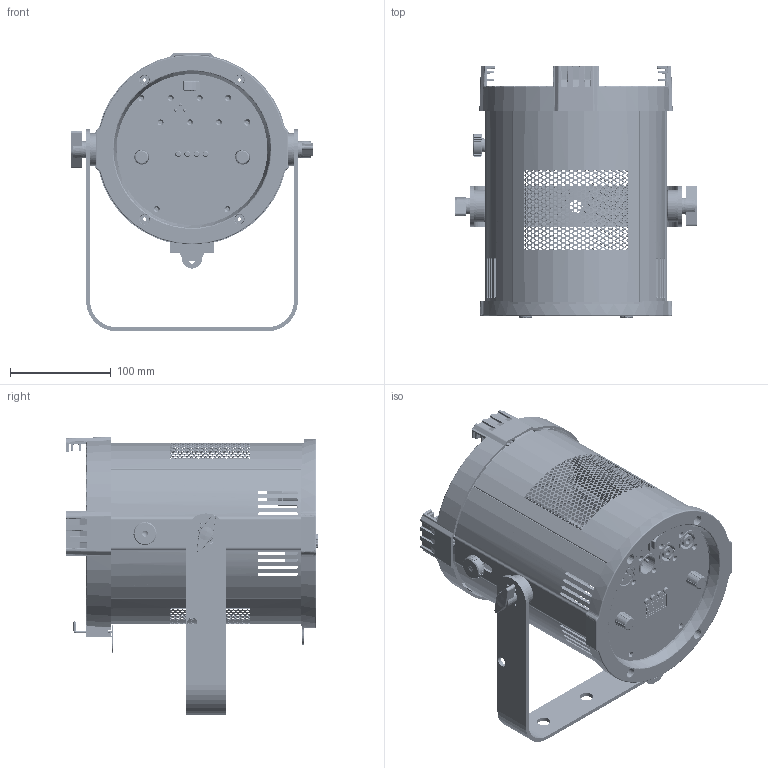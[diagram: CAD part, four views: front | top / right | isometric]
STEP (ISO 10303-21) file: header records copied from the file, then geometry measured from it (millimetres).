
FILE_DESCRIPTION (( 'STEP AP214' ), '1' );
FILE_NAME ('Event200t（常规）.STEP', '2025-03-14T05:36:43', ( '' ), ( '' ), 'SwSTEP 2.0', 'SolidWorks 2023', '' );
FILE_SCHEMA (( 'AUTOMOTIVE_DESIGN' ));
Length unit declared in the file: millimetre
Products named in the file (24): 提手固定件B; 滚齿-M6; Event200t（常规）; 弹簧卡扣 (2); 灯筒铝板（右侧）; M6直线旋钮; 提手; 小电位器旋钮; 卡侬插座; 亚克力板; 灯筒铝板（左侧）; 弹簧卡扣; 常规控制面板; 灯筒尾; 50W聚光灯显示屏; 滚齿-通孔; 灯筒头; 防护网; 灯筒铝板（上）; NAC3MPA; 电源开关; 电位器; 按钮帽; 旋钮
Assembly tree (35 placements, depth 2):
  Event200t（常规）
    常规控制面板
    灯筒铝板（上）  x2
    灯筒铝板（右侧）
    灯筒铝板（左侧）
    50W聚光灯显示屏
    按钮帽  x4
    卡侬插座
    电源开关
    灯筒尾
    电位器  x2
    滚齿-M6  x2
    滚齿-通孔  x2
    小电位器旋钮  x2
    防护网  x2
    提手固定件B  x2
    灯筒头
    亚克力板
    提手
    弹簧卡扣 (2)
    弹簧卡扣
    M6直线旋钮  x2
    旋钮
    NAC3MPA  x2
Bounding box: 240.89 x 250 x 275.87 mm (x, y, z)
Volume: 766795.6 mm3; surface area: 618742.4 mm2
Topology: 39 solids, 39 shells, 13374 faces, 37975 edges, 24269 vertices
Faces by surface type: bspline 6414, plane 4953, cylinder 1540, cone 262, torus 145, sphere 60
Full cylindrical faces by diameter (mm): 1.65 x2, 2 x2, 2.4 x8, 2.5 x22, 3.2 x32, 3.3 x8, 3.4 x7, 3.5 x8, 4.2 x8, 4.5 x8, 5 x9, 5.7 x2, 6 x1, 6.5 x6, 6.6 x16, 8 x2, 9.454 x2, 10 x3, 12.3 x2, 13 x9, 13.5 x1, 18.5 x1, 23.6 x2, 23.8 x2, 24 x4, 32 x6, 150 x1
Entity records: 399516 total; most frequent: CARTESIAN_POINT 164945, ORIENTED_EDGE 42042, DIRECTION 23029, EDGE_CURVE 21021, VERTEX_POINT 13569, B_SPLINE_CURVE_WITH_KNOTS 9837, EDGE_LOOP 9004, AXIS2_PLACEMENT_3D 8076
